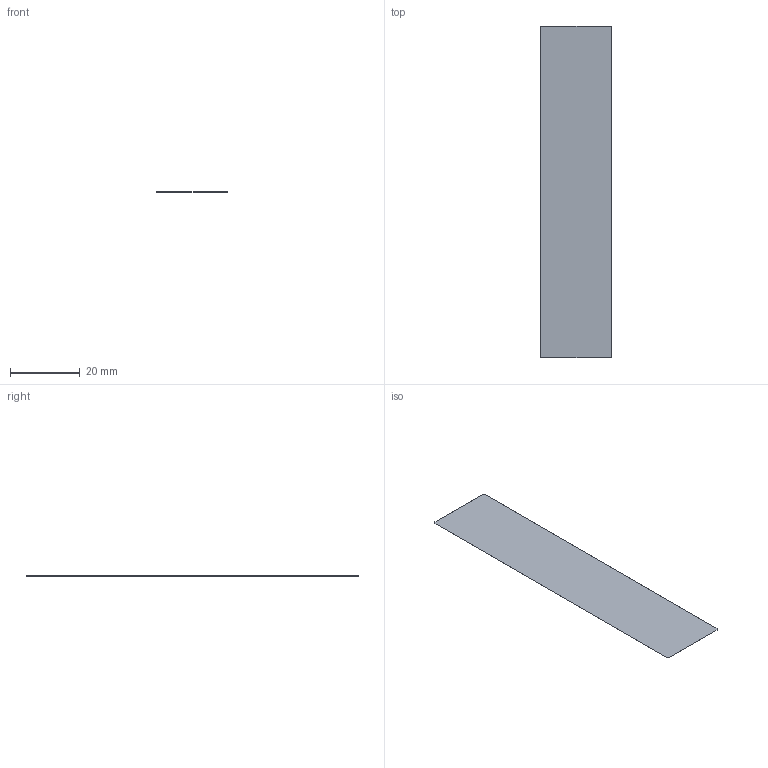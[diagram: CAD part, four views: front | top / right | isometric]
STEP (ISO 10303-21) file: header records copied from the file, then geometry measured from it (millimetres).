
FILE_DESCRIPTION(/* description */ (''),/* implementation_level */ '2;1');
FILE_NAME(/* name */ 'C27_R2_LTE_Seat_Bond_Film.step',/* time_stamp */ '2026-09-10T17:49:36-07:00',/* author */ (''),/* organization */ (''),/* preprocessor_version */ 'ST-DEVELOPER v20.1',/* originating_system */ 'Autodesk Translation Framework v15.8.0.0',/* authorisation */ '');
FILE_SCHEMA (('AUTOMOTIVE_DESIGN { 1 0 10303 214 3 1 1 }'));
Length unit declared in the file: millimetre
Products named in the file (1): 2026-09-10-17-49-36-204
Bounding box: 20.4 x 95.4 x 0.02 mm (x, y, z)
Volume: 38.9 mm3; surface area: 3896.3 mm2
Topology: 1 solids, 1 shells, 10 faces, 24 edges, 16 vertices
Faces by surface type: plane 6, cylinder 4
Entity records: 329 total; most frequent: DIRECTION 54, CARTESIAN_POINT 51, ORIENTED_EDGE 48, EDGE_CURVE 24, AXIS2_PLACEMENT_3D 19, LINE 16, VECTOR 16, VERTEX_POINT 16
